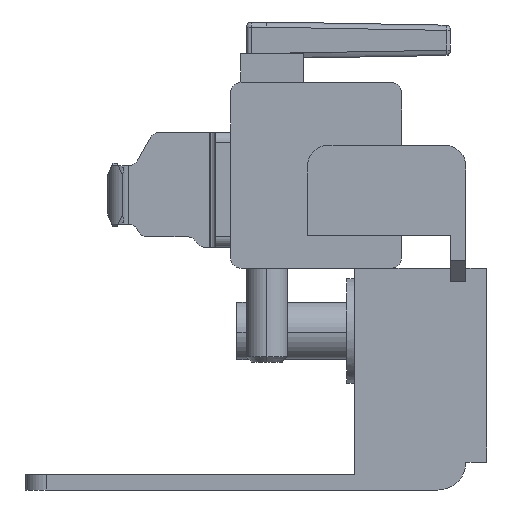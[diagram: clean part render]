
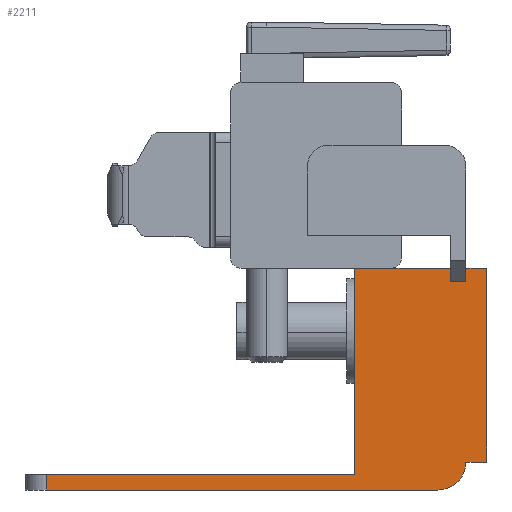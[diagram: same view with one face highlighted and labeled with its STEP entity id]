
A CAD part, left-side view. The second image highlights one B-rep face of the part: STEP entity #2211.
In plain terms, the highlighted planar face has unit normal (-1, 0, 0).
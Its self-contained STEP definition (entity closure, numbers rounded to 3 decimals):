
#56 = CARTESIAN_POINT ( 'NONE',  ( -341., 11.767, 21.019 ) ) ;
#60 = DIRECTION ( 'NONE',  ( 0., 1., 0. ) ) ;
#157 = DIRECTION ( 'NONE',  ( 0., 1., 0. ) ) ;
#158 = LINE ( 'NONE', #2733, #4789 ) ;
#184 = DIRECTION ( 'NONE',  ( 0., 1., 0. ) ) ;
#286 = LINE ( 'NONE', #2502, #3729 ) ;
#309 = CARTESIAN_POINT ( 'NONE',  ( -341., -26.863, 40.749 ) ) ;
#314 = DIRECTION ( 'NONE',  ( 0., 0., -1. ) ) ;
#379 = CARTESIAN_POINT ( 'NONE',  ( -341., -26.863, 39.459 ) ) ;
#442 = LINE ( 'NONE', #2188, #5079 ) ;
#557 = DIRECTION ( 'NONE',  ( 1., 0., 0. ) ) ;
#597 = DIRECTION ( 'NONE',  ( 0., -1., 0. ) ) ;
#621 = CARTESIAN_POINT ( 'NONE',  ( -341., -30.333, 22.219 ) ) ;
#636 = EDGE_CURVE ( 'NONE', #3675, #917, #3777, .T. ) ;
#756 = LINE ( 'NONE', #2824, #5388 ) ;
#818 = DIRECTION ( 'NONE',  ( 0., 1., 0. ) ) ;
#846 = CARTESIAN_POINT ( 'NONE',  ( -341., -28.333, 40.749 ) ) ;
#859 = AXIS2_PLACEMENT_3D ( 'NONE', #3240, #557, #3700 ) ;
#864 = ORIENTED_EDGE ( 'NONE', *, *, #3759, .T. ) ;
#917 = VERTEX_POINT ( 'NONE', #846 ) ;
#1044 = ORIENTED_EDGE ( 'NONE', *, *, #1955, .F. ) ;
#1097 = VECTOR ( 'NONE', #184, 1000. ) ;
#1109 = ORIENTED_EDGE ( 'NONE', *, *, #636, .T. ) ;
#1122 = LINE ( 'NONE', #2109, #5739 ) ;
#1203 = VERTEX_POINT ( 'NONE', #5744 ) ;
#1229 = EDGE_CURVE ( 'NONE', #1951, #3675, #1122, .T. ) ;
#1271 = ORIENTED_EDGE ( 'NONE', *, *, #3641, .T. ) ;
#1309 = ORIENTED_EDGE ( 'NONE', *, *, #2765, .F. ) ;
#1344 = EDGE_CURVE ( 'NONE', #2960, #4171, #5217, .T. ) ;
#1350 = EDGE_CURVE ( 'NONE', #4597, #5404, #442, .T. ) ;
#1393 = ORIENTED_EDGE ( 'NONE', *, *, #2456, .T. ) ;
#1685 = AXIS2_PLACEMENT_3D ( 'NONE', #5234, #3536, #818 ) ;
#1820 = VECTOR ( 'NONE', #2033, 1000. ) ;
#1951 = VERTEX_POINT ( 'NONE', #621 ) ;
#1955 = EDGE_CURVE ( 'NONE', #1203, #5265, #3646, .T. ) ;
#2033 = DIRECTION ( 'NONE',  ( 0., 0., -1. ) ) ;
#2109 = CARTESIAN_POINT ( 'NONE',  ( -341., -30.333, 22.219 ) ) ;
#2134 = EDGE_CURVE ( 'NONE', #4171, #5404, #4143, .T. ) ;
#2185 = DIRECTION ( 'NONE',  ( 0., 0., 1. ) ) ;
#2188 = CARTESIAN_POINT ( 'NONE',  ( -341., -17.713, 40.749 ) ) ;
#2208 = DIRECTION ( 'NONE',  ( 0., -1., 0. ) ) ;
#2211 = ADVANCED_FACE ( 'NONE', ( #2345 ), #2995, .F. ) ;
#2284 = LINE ( 'NONE', #2854, #1097 ) ;
#2345 = FACE_OUTER_BOUND ( 'NONE', #5506, .T. ) ;
#2352 = CARTESIAN_POINT ( 'NONE',  ( -341., -28.333, 22.219 ) ) ;
#2387 = ORIENTED_EDGE ( 'NONE', *, *, #2134, .T. ) ;
#2402 = DIRECTION ( 'NONE',  ( 0., 0., 1. ) ) ;
#2456 = EDGE_CURVE ( 'NONE', #917, #2960, #3023, .T. ) ;
#2502 = CARTESIAN_POINT ( 'NONE',  ( -341., -17.713, 40.749 ) ) ;
#2670 = DIRECTION ( 'NONE',  ( 0., 1., 0. ) ) ;
#2733 = CARTESIAN_POINT ( 'NONE',  ( -341., -30.333, 22.219 ) ) ;
#2765 = EDGE_CURVE ( 'NONE', #1951, #4475, #158, .T. ) ;
#2824 = CARTESIAN_POINT ( 'NONE',  ( -341., 14.667, 19.549 ) ) ;
#2827 = EDGE_CURVE ( 'NONE', #4475, #3697, #3313, .T. ) ;
#2854 = CARTESIAN_POINT ( 'NONE',  ( -341., -29.063, 21.019 ) ) ;
#2960 = VERTEX_POINT ( 'NONE', #4228 ) ;
#2995 = PLANE ( 'NONE',  #1685 ) ;
#3021 = CARTESIAN_POINT ( 'NONE',  ( -341., -25.663, 19.549 ) ) ;
#3023 = LINE ( 'NONE', #4749, #1820 ) ;
#3048 = CARTESIAN_POINT ( 'NONE',  ( -341., -26.863, 39.459 ) ) ;
#3240 = CARTESIAN_POINT ( 'NONE',  ( -341., -25.663, 22.219 ) ) ;
#3313 = CIRCLE ( 'NONE', #859, 2.67 ) ;
#3476 = EDGE_CURVE ( 'NONE', #5037, #5265, #2284, .T. ) ;
#3536 = DIRECTION ( 'NONE',  ( 1., 0., 0. ) ) ;
#3641 = EDGE_CURVE ( 'NONE', #4597, #5037, #286, .T. ) ;
#3646 = LINE ( 'NONE', #5112, #4840 ) ;
#3675 = VERTEX_POINT ( 'NONE', #4824 ) ;
#3697 = VERTEX_POINT ( 'NONE', #3021 ) ;
#3700 = DIRECTION ( 'NONE',  ( 0., 0., 1. ) ) ;
#3729 = VECTOR ( 'NONE', #314, 1000. ) ;
#3759 = EDGE_CURVE ( 'NONE', #1203, #3697, #756, .T. ) ;
#3777 = LINE ( 'NONE', #4303, #5099 ) ;
#3967 = ORIENTED_EDGE ( 'NONE', *, *, #1344, .T. ) ;
#3985 = CARTESIAN_POINT ( 'NONE',  ( -341., -17.713, 21.019 ) ) ;
#4038 = VECTOR ( 'NONE', #2670, 1000. ) ;
#4143 = LINE ( 'NONE', #309, #5188 ) ;
#4160 = ORIENTED_EDGE ( 'NONE', *, *, #2827, .F. ) ;
#4171 = VERTEX_POINT ( 'NONE', #3048 ) ;
#4228 = CARTESIAN_POINT ( 'NONE',  ( -341., -28.333, 39.459 ) ) ;
#4301 = CARTESIAN_POINT ( 'NONE',  ( -341., -17.713, 40.749 ) ) ;
#4303 = CARTESIAN_POINT ( 'NONE',  ( -341., -30.333, 40.749 ) ) ;
#4357 = DIRECTION ( 'NONE',  ( 0., 0., 1. ) ) ;
#4475 = VERTEX_POINT ( 'NONE', #2352 ) ;
#4597 = VERTEX_POINT ( 'NONE', #4301 ) ;
#4621 = ORIENTED_EDGE ( 'NONE', *, *, #1229, .T. ) ;
#4733 = ORIENTED_EDGE ( 'NONE', *, *, #1350, .F. ) ;
#4749 = CARTESIAN_POINT ( 'NONE',  ( -341., -28.333, 40.749 ) ) ;
#4789 = VECTOR ( 'NONE', #60, 1000. ) ;
#4824 = CARTESIAN_POINT ( 'NONE',  ( -341., -30.333, 40.749 ) ) ;
#4840 = VECTOR ( 'NONE', #2402, 1000. ) ;
#5037 = VERTEX_POINT ( 'NONE', #3985 ) ;
#5079 = VECTOR ( 'NONE', #2208, 1000. ) ;
#5099 = VECTOR ( 'NONE', #157, 1000. ) ;
#5112 = CARTESIAN_POINT ( 'NONE',  ( -341., 11.767, 21.319 ) ) ;
#5188 = VECTOR ( 'NONE', #4357, 1000. ) ;
#5217 = LINE ( 'NONE', #379, #4038 ) ;
#5234 = CARTESIAN_POINT ( 'NONE',  ( -341., -29.063, 23.319 ) ) ;
#5261 = ORIENTED_EDGE ( 'NONE', *, *, #3476, .T. ) ;
#5265 = VERTEX_POINT ( 'NONE', #56 ) ;
#5370 = CARTESIAN_POINT ( 'NONE',  ( -341., -26.863, 40.749 ) ) ;
#5388 = VECTOR ( 'NONE', #597, 1000. ) ;
#5404 = VERTEX_POINT ( 'NONE', #5370 ) ;
#5506 = EDGE_LOOP ( 'NONE', ( #1271, #5261, #1044, #864, #4160, #1309, #4621, #1109, #1393, #3967, #2387, #4733 ) ) ;
#5739 = VECTOR ( 'NONE', #2185, 1000. ) ;
#5744 = CARTESIAN_POINT ( 'NONE',  ( -341., 11.767, 19.549 ) ) ;
